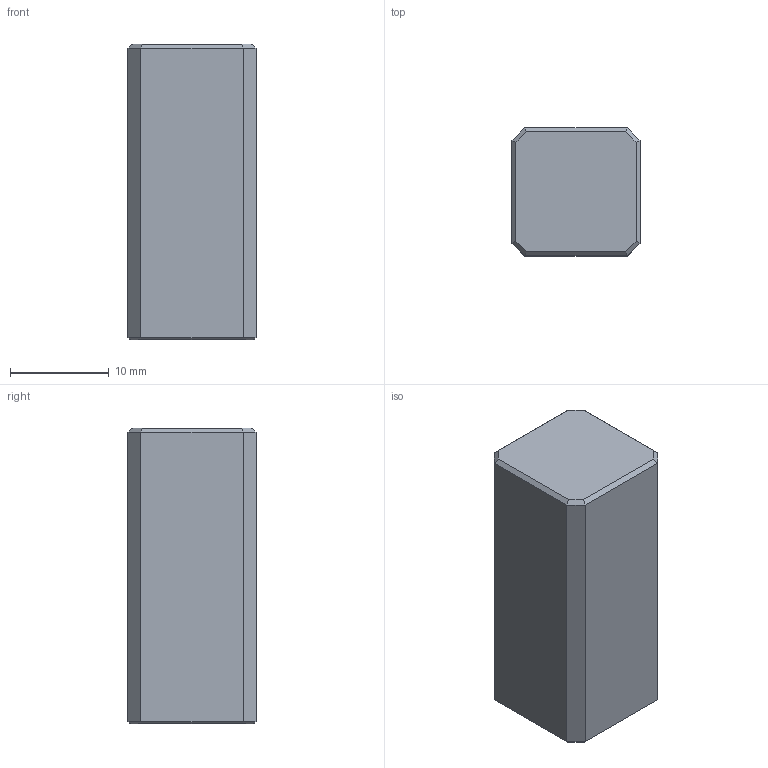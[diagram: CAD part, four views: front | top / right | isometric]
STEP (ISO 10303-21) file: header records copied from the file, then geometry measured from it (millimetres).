
FILE_DESCRIPTION(('Open CASCADE Model'),'2;1');
FILE_NAME('PN-PIN-knob-16','2026-10-19T21:24:16',('Author'),( 'Open CASCADE'),'Open CASCADE STEP processor 8.0','build123d', 'Unknown');
FILE_SCHEMA(('AUTOMOTIVE_DESIGN { 1 0 10303 214 1 1 1 1 }'));
Length unit declared in the file: millimetre
Products named in the file (2): PN-PIN-knob-16; brass_PN-PIN16__k
Assembly tree (1 placements, depth 2):
  PN-PIN-knob-16
    brass_PN-PIN16__k
Bounding box: 13 x 13 x 30 mm (x, y, z)
Volume: 4853.9 mm3; surface area: 1905.2 mm2
Topology: 1 solids, 1 shells, 30 faces, 62 edges, 36 vertices
Faces by surface type: plane 28, cylinder 2
Full cylindrical faces by diameter (mm): 3.3 x1, 5.1 x1
Entity records: 1596 total; most frequent: CARTESIAN_POINT 254, DIRECTION 254, LINE 178, VECTOR 178, ORIENTED_EDGE 124, PCURVE 124, DEFINITIONAL_REPRESENTATION 124, EDGE_CURVE 62
